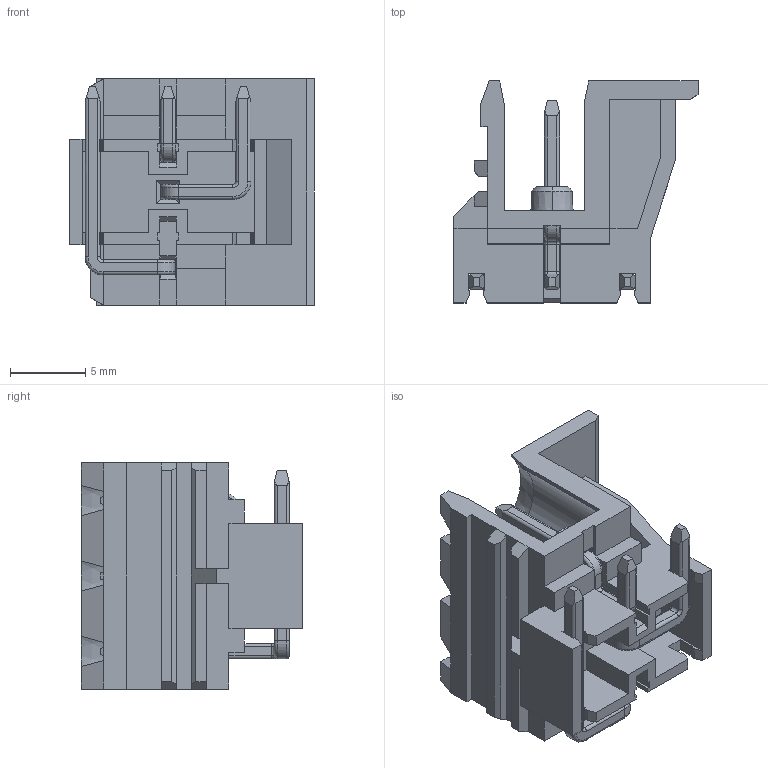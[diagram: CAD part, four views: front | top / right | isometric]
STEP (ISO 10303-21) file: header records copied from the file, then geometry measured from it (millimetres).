
FILE_DESCRIPTION((''),'2;1');
FILE_NAME('EU0370500000G_SW0001','2019-05-07T',('zhenbing.lai'),(''),'CREO PARAMETRIC BY PTC INC, 2016260','CREO PARAMETRIC BY PTC INC, 2016260','');
FILE_SCHEMA(('CONFIG_CONTROL_DESIGN'));
Length unit declared in the file: millimetre
Products named in the file (1): EU0370500000G_SW0001
Bounding box: 16.18 x 14.7 x 15 mm (x, y, z)
Volume: 929.7 mm3; surface area: 2057.3 mm2
Topology: 1 solids, 1 shells, 446 faces, 1282 edges, 822 vertices
Faces by surface type: plane 324, cylinder 79, torus 28, cone 15
Entity records: 15203 total; most frequent: CARTESIAN_POINT 3513, ORIENTED_EDGE 2564, DIRECTION 2263, EDGE_CURVE 1282, VECTOR 991, LINE 991, VERTEX_POINT 822, AXIS2_PLACEMENT_3D 636
